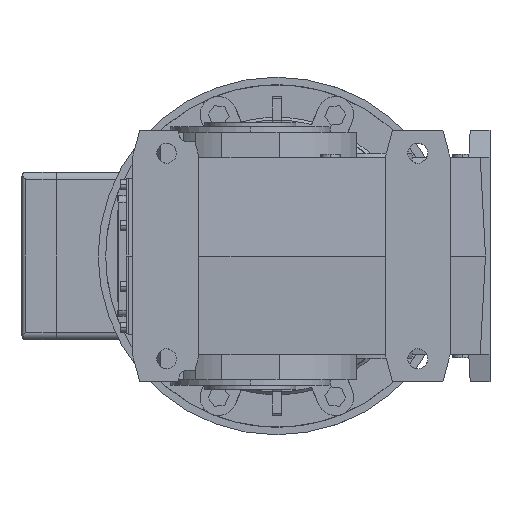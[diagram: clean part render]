
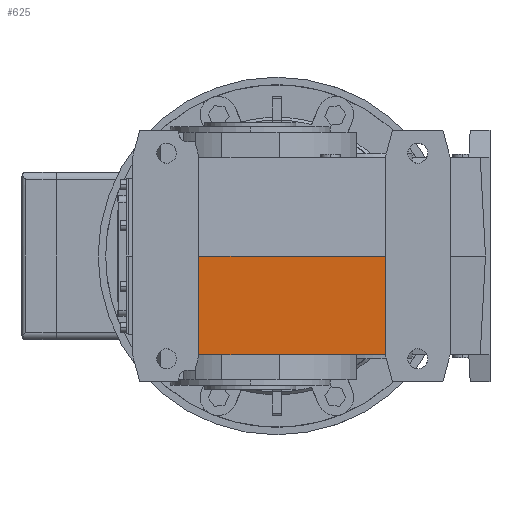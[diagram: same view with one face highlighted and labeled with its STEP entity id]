
A CAD part, left-side view. The second image highlights one B-rep face of the part: STEP entity #625.
In plain terms, the highlighted planar face has unit normal (-0.999, 0, -0.052).
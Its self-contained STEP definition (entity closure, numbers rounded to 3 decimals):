
#625 = ADVANCED_FACE( '', ( #1933 ), #1934, .F. );
#1933 = FACE_OUTER_BOUND( '', #4117, .T. );
#1934 = PLANE( '', #4118 );
#4117 = EDGE_LOOP( '', ( #7711, #7712, #7713, #7714 ) );
#4118 = AXIS2_PLACEMENT_3D( '', #7715, #7716, #7717 );
#7711 = ORIENTED_EDGE( '', *, *, #14777, .F. );
#7712 = ORIENTED_EDGE( '', *, *, #14774, .F. );
#7713 = ORIENTED_EDGE( '', *, *, #14778, .F. );
#7714 = ORIENTED_EDGE( '', *, *, #14779, .T. );
#7715 = CARTESIAN_POINT( '', ( -194., 67.5, 0. ) );
#7716 = DIRECTION( '', ( 0.999, 0., 0.052 ) );
#7717 = DIRECTION( '', ( -0.052, 0., 0.999 ) );
#14774 = EDGE_CURVE( '', #17906, #17908, #17909, .T. );
#14777 = EDGE_CURVE( '', #17908, #17913, #17914, .T. );
#14778 = EDGE_CURVE( '', #17915, #17906, #17916, .T. );
#14779 = EDGE_CURVE( '', #17915, #17913, #17917, .T. );
#17906 = VERTEX_POINT( '', #22817 );
#17908 = VERTEX_POINT( '', #22820 );
#17909 = LINE( '', #22821, #22822 );
#17913 = VERTEX_POINT( '', #22828 );
#17914 = LINE( '', #22829, #22830 );
#17915 = VERTEX_POINT( '', #22831 );
#17916 = LINE( '', #22832, #22833 );
#17917 = LINE( '', #22834, #22835 );
#22817 = CARTESIAN_POINT( '', ( -194., -177.5, 0. ) );
#22820 = CARTESIAN_POINT( '', ( -187.187, -177.5, -130. ) );
#22821 = CARTESIAN_POINT( '', ( -194., -177.5, 0. ) );
#22822 = VECTOR( '', #29367, 1. );
#22828 = CARTESIAN_POINT( '', ( -187.187, 67.5, -130. ) );
#22829 = CARTESIAN_POINT( '', ( -187.187, 16.25, -130. ) );
#22830 = VECTOR( '', #29370, 1. );
#22831 = CARTESIAN_POINT( '', ( -194., 67.5, 0. ) );
#22832 = CARTESIAN_POINT( '', ( -194., 67.5, 0. ) );
#22833 = VECTOR( '', #29371, 1. );
#22834 = CARTESIAN_POINT( '', ( -194., 67.5, 0. ) );
#22835 = VECTOR( '', #29372, 1. );
#29367 = DIRECTION( '', ( 0.052, 0., -0.999 ) );
#29370 = DIRECTION( '', ( 0., 1., 0. ) );
#29371 = DIRECTION( '', ( 0., -1., 0. ) );
#29372 = DIRECTION( '', ( 0.052, 0., -0.999 ) );
